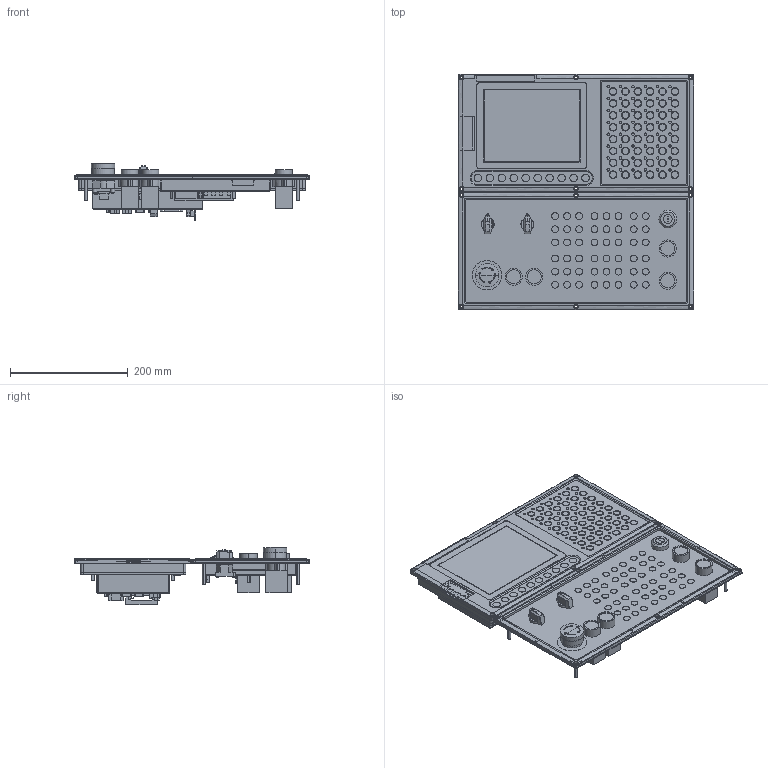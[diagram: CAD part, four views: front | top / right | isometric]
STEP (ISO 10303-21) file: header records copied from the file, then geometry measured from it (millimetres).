
FILE_DESCRIPTION (( 'STEP AP214' ), '1' );
FILE_NAME ('B-8铣床横式+辅助板开窗尺寸.STEP', '2022-12-28T03:10:28', ( 'admin' ), ( '' ), 'SwSTEP 2.0', 'SolidWorks 2018', '' );
FILE_SCHEMA (( 'AUTOMOTIVE_DESIGN' ));
Products named in the file (1): B-8铣床横式+辅助板开窗尺寸
Bounding box: 400 x 400 x 97.4 mm (x, y, z)
Volume: 3433270.2 mm3; surface area: 698124.9 mm2
Topology: 2 solids, 115 shells, 3924 faces, 9414 edges, 6192 vertices
Faces by surface type: plane 2283, cylinder 1287, bspline 248, cone 79, sphere 19, torus 8
Entity records: 131110 total; most frequent: CARTESIAN_POINT 40115, ORIENTED_EDGE 18818, DIRECTION 18232, EDGE_CURVE 9409, AXIS2_PLACEMENT_3D 6271, VERTEX_POINT 6192, VECTOR 5690, LINE 5690
